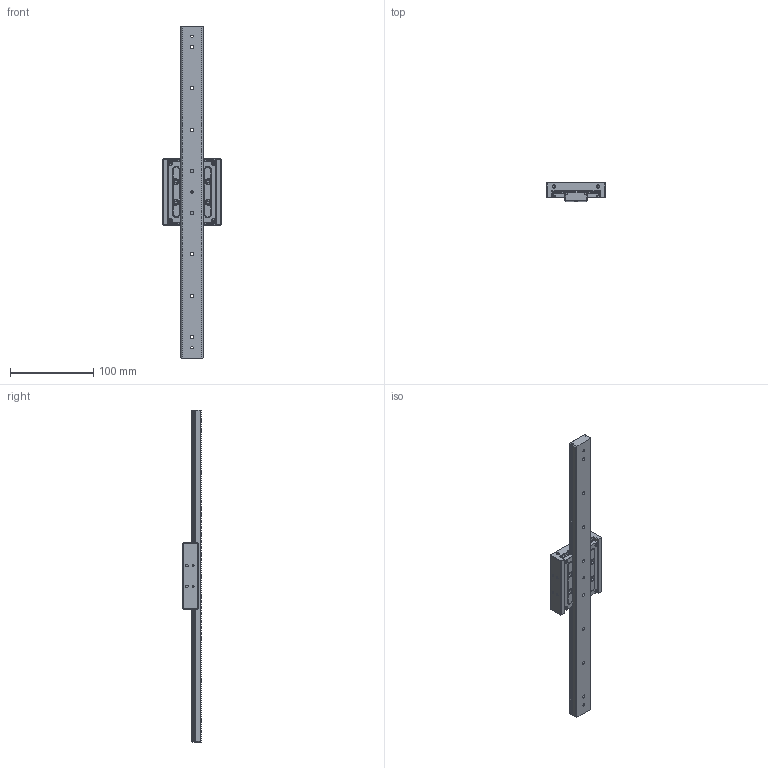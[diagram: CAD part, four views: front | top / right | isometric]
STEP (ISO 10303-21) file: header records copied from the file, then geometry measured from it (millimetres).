
FILE_DESCRIPTION(/* description */ ('TAVOLA TRKD03 L=400'),/* implementation_level */ '2;1');
FILE_NAME(/* name */ 'TRKD030400-00.stp',/* time_stamp */ '2024-01-24T15:38:33+01:00',/* author */ ('Rosa sistemi'),/* organization */ (''),/* preprocessor_version */ 'ST-DEVELOPER v20',/* originating_system */ 'Autodesk Inventor 2024',/* authorisation */ '');
FILE_SCHEMA (('AUTOMOTIVE_DESIGN { 1 0 10303 214 3 1 1 }'));
Length unit declared in the file: millimetre
Products named in the file (2): TRKD030400-00; TAVOLA TRKD03 L=400
Assembly tree (1 placements, depth 2):
  TRKD030400-00
    TAVOLA TRKD03 L=400
Bounding box: 70 x 22.5 x 400 mm (x, y, z)
Volume: 193644.7 mm3; surface area: 61271.4 mm2
Topology: 42 solids, 42 shells, 667 faces, 1720 edges, 1091 vertices
Faces by surface type: plane 403, cylinder 87, cone 77, sphere 48, bspline 36, torus 16
Full cylindrical faces by diameter (mm): 1.5 x2, 1.889 x1, 2.459 x2, 3 x5, 3.242 x16, 4 x7, 4.134 x8, 5.195 x1, 6 x4, 7 x4, 7.5 x12
Entity records: 20849 total; most frequent: CARTESIAN_POINT 4345, ORIENTED_EDGE 3224, DIRECTION 3138, EDGE_CURVE 1612, VERTEX_POINT 1091, AXIS2_PLACEMENT_3D 1054, LINE 1030, VECTOR 1030
